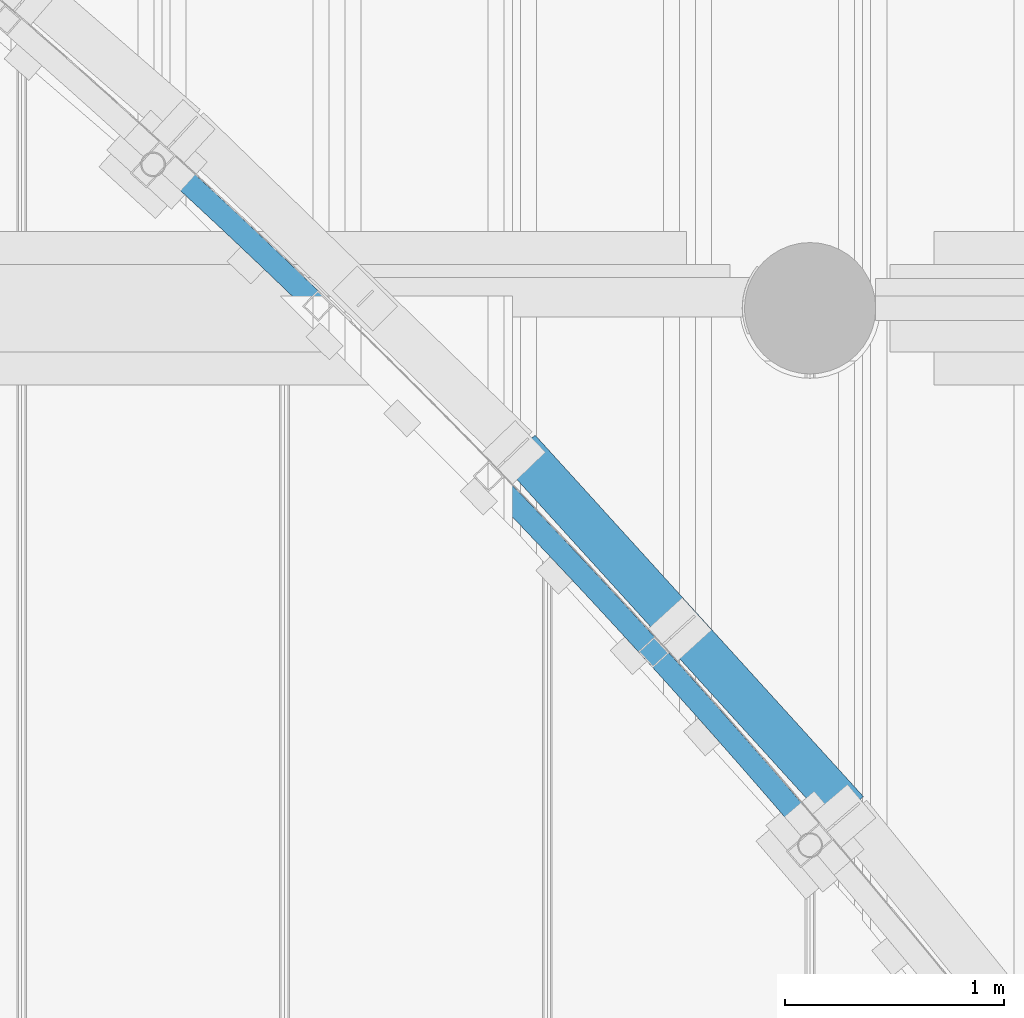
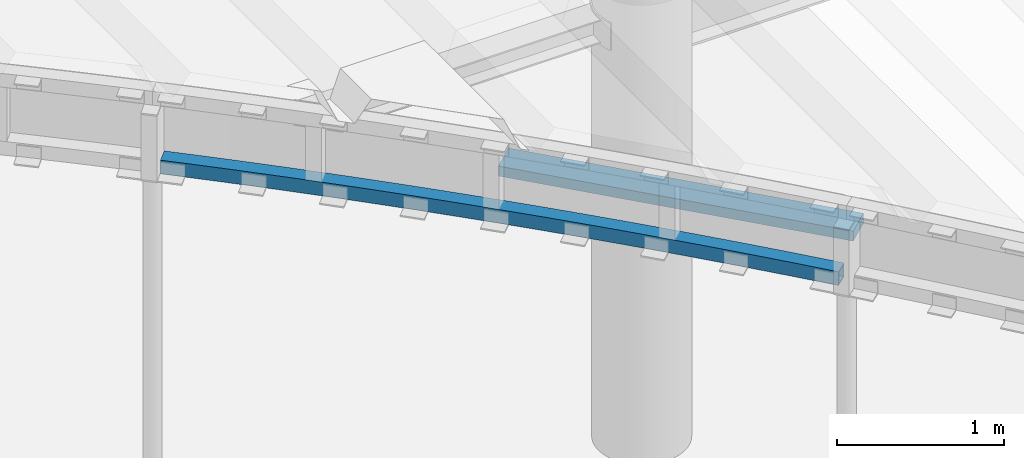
# One storey, part 13 of 98: 2 beams.
"""IFC2X3 building model written with IfcOpenShell, lengths in millimetres."""

from ifc_helpers import new_model, entity, si_unit, converted_unit, derived_unit, direction, frame, origin_with_axes, place, context, subcontext, project, spatial, faceted_brep, material, type_object, element, save


model = new_model("IFC2X3")

# Units and contexts
model_context = context("Model", 3, precision=0.01, world=frame((0.0, 4.29681676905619e-09, 0.0)), true_north=direction((4.01073788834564e-13, 1.0)))
plan_context = context("Plan", 3, precision=0.01, world=frame((0.0, 4.29681676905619e-09, 0.0)), true_north=direction((4.01073788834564e-13, 1.0)))
body_context = subcontext(model_context, "Body", "Model", "MODEL_VIEW")
ifc_project = project(units=[converted_unit("PLANEANGLEUNIT", "DEGREE", entity("IfcPositiveLengthMeasure", 0.0174532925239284), si_unit("PLANEANGLEUNIT", "RADIAN"), dimensions=[0, 0, 0, 0, 0, 0, 0]), si_unit("AREAUNIT", "SQUARE_METRE"), si_unit("LENGTHUNIT", "METRE", prefix="MILLI"), si_unit("MASSUNIT", "GRAM", prefix="KILO"), si_unit("POWERUNIT", "WATT"), si_unit("PRESSUREUNIT", "PASCAL"), si_unit("FORCEUNIT", "NEWTON", prefix="KILO"), si_unit("ELECTRICCURRENTUNIT", "AMPERE"), si_unit("THERMODYNAMICTEMPERATUREUNIT", "DEGREE_CELSIUS"), si_unit("TIMEUNIT", "SECOND"), si_unit("VOLUMEUNIT", "CUBIC_METRE"), derived_unit("LINEARVELOCITYUNIT", [(si_unit("LENGTHUNIT", "METRE"), 1), (si_unit("TIMEUNIT", "SECOND"), -1)]), derived_unit("VOLUMETRICFLOWRATEUNIT", [(si_unit("VOLUMEUNIT", "CUBIC_METRE"), 1), (si_unit("TIMEUNIT", "SECOND"), -1)]), derived_unit("THERMALTRANSMITTANCEUNIT", [(si_unit("POWERUNIT", "WATT"), 1), (si_unit("THERMODYNAMICTEMPERATUREUNIT", "KELVIN"), -1), (si_unit("AREAUNIT", "SQUARE_METRE"), -1)])], contexts=[model_context, plan_context])

# Site, building, storey
site_placement = place(None, frame((0.0, -4.29681676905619e-09, 0.0), z_axis=(0.0, 0.0, 1.0), x_axis=(1.0, 0.0, 0.0)))
site = spatial("IfcSite", under=ifc_project, at=site_placement, Name="Gardermoen", CompositionType="ELEMENT")
building_placement = place(site_placement, frame((0.0, 4.29681676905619e-09, 0.0), z_axis=(0.0, 0.0, 1.0), x_axis=(1.0, 0.0, 0.0)))
building = spatial("IfcBuilding", under=site, at=building_placement, Name="TS", CompositionType="ELEMENT")
storey_placement = place(building_placement, origin_with_axes())
storey = spatial("IfcBuildingStorey", under=building, at=storey_placement, Name="D", CompositionType="ELEMENT", Elevation=0.0)

# Beams
ifc_material_1 = material(Name="TIMBER/GL36c")
beam_type_1 = type_object("IfcBeamType", Name="PL73*198", PredefinedType="NOTDEFINED")
beam_1_placement = place(storey_placement, frame((529170.521674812, 403203.359927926, 206786.5), z_axis=(-0.740230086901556, -0.672353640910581, 0.0), x_axis=(-0.672353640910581, 0.740230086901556, 0.0)))
element("IfcBeam", 1, at=beam_1_placement, inside=storey, type_object=beam_type_1, material=ifc_material_1, Name="TREBJELKE", ObjectType="PL73*198", context=body_context, shape_type="Brep", body=[
    faceted_brep([(2.3283064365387e-10, 36.5, -99.0000000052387), (-2.3283064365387e-10, 36.5, 99.0000000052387), (2230.05016911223, 36.5, 98.9999999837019), (2230.05016910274, 36.5, -99.0000000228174), (-2.3283064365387e-10, -36.5, 99.0000000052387), (2230.05016911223, -36.5, 98.9999999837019), (2.3283064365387e-10, -36.5, -99.0000000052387), (2230.05016910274, -36.5, -99.0000000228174)], [[[0, 1, 2, 3]], [[1, 4, 5, 2]], [[4, 6, 7, 5]], [[6, 0, 3, 7]], [[5, 7, 3, 2]], [[6, 4, 1, 0]]]),
])
ifc_material_2 = material(Name="STEEL/S355")
beam_type_2 = type_object("IfcBeamType", Name="RHS100*6.3", PredefinedType="NOTDEFINED")
beam_2_placement = place(storey_placement, frame((526031.026674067, 406191.052703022, 206555.0), z_axis=(0.0, 0.0, 1.0), x_axis=(0.69236116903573, -0.721551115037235, 0.0)))
element("IfcBeam", 2, at=beam_2_placement, inside=storey, type_object=beam_type_2, material=ifc_material_2, Name="STÅLBJELKE", ObjectType="RHS100*6.3", context=body_context, shape_type="Brep", body=[
    faceted_brep([(93.3062575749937, -44.1646306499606, -50.0), (87.0862092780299, 55.6417368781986, -50.0), (177.426448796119, 61.1542571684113, -50.0), (183.387642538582, -38.6679055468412, -50.0), (267.780680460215, 66.4324743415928, -50.0), (273.48297955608, -33.4048122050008, -50.0), (358.148296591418, 71.4763528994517, -50.0), (363.591662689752, -28.3753860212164, -50.0), (448.528689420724, 76.2858589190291, -50.0), (453.71308591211, -23.5796608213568, -50.0), (538.921251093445, 80.8609600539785, -50.0), (543.846643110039, -19.0176688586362, -50.0), (629.325373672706, 85.2016255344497, -50.0), (633.991728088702, -14.6894408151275, -50.0), (719.740449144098, 89.3078261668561, -50.0), (724.147734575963, -10.5950058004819, -50.0), (810.165869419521, 93.1795343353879, -50.0), (814.314056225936, -6.7343913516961, -50.0), (900.601026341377, 96.8167240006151, -50.0), (904.490086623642, -3.107623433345, -50.0), (991.04531168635, 100.219370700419, -50.0), (994.675219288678, 0.285273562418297, -50.0), (1081.49811717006, 103.387451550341, -50.0), (1084.86884767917, 3.44427681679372, -50.0), (1171.95883445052, 106.320945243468, -50.0), (1175.07036519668, 6.36936508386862, -50.0), (1262.42685513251, 109.019832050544, -50.0), (1265.27916518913, 9.06051869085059, -50.0), (1352.90157077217, 111.484093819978, -50.0), (1355.49464095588, 11.5177195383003, -50.0), (1443.38237288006, 113.713713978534, -50.0), (1445.71618575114, 13.7409511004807, -50.0), (1533.86865292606, 115.708677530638, -50.0), (1535.94319278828, 15.7301984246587, -50.0), (1624.35980234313, 117.468971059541, -50.0), (1626.17505524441, 17.4854481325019, -50.0), (1714.85521253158, 118.994582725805, -50.0), (1716.41116626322, 19.0066884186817, -50.0), (1805.35427486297, 120.285502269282, -50.0), (1806.65091896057, 20.2939090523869, -50.0), (1895.85638068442, 121.34172100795, -50.0), (1896.89370642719, 21.3471013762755, -50.0), (1986.36092132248, 122.163231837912, -50.0), (1987.13892173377, 22.166258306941, -50.0), (2076.86728808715, 122.750029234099, -50.0), (2077.38595793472, 22.7513743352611, -50.0), (2167.3748722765, 123.102109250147, -50.0), (2167.63420807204, 23.102445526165, -50.0), (2257.88306518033, 123.219469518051, -50.0), (2257.88306517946, 23.2194695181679, -50.0), (2348.39125808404, 123.102109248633, -50.0), (2348.13192228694, 23.1024455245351, -50.0), (2438.8988422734, 122.750029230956, -50.0), (2438.38017242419, 22.7513743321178, -50.0), (2529.40520903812, 122.163231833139, -50.0), (2528.62720862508, 22.1662583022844, -50.0), (2619.90974967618, 121.341721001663, -50.0), (2618.87242393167, 21.3471013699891, -50.0), (2710.41185549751, 120.285502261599, -50.0), (2709.11521139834, 20.2939090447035, -50.0), (2800.91091782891, 118.994582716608, -50.0), (2799.35496409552, 19.0066884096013, -50.0), (2891.40632801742, 117.468971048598, -50.0), (2889.59107511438, 17.4854481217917, -50.0), (2981.89747743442, 115.708677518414, -50.0), (2979.8229375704, 15.7301984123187, -50.0), (3072.38375748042, 113.713713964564, -50.0), (3070.04994460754, 13.7409510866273, -50.0), (3162.86455958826, 111.484093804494, -50.0), (3160.27148940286, 11.5177195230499, -50.0), (3253.33927522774, 109.019832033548, -50.0), (3250.48696516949, 9.06051867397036, -50.0), (3343.80729590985, 106.320945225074, -50.0), (3340.69576516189, 6.36936506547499, -50.0), (3434.26801319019, 103.387451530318, -50.0), (3430.89728267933, 3.4442767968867, -50.0), (3524.72081867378, 100.219370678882, -50.0), (3521.09091106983, 0.285273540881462, -50.0), (3615.16510401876, 96.8167239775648, -50.0), (3611.27604373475, -3.10762345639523, -50.0), (3705.60026094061, 93.1795343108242, -50.0), (3701.45207413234, -6.73439137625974, -50.0), (3796.02568121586, 89.3078261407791, -50.0), (3791.61839578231, -10.5950058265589, -50.0), (3886.44075668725, 85.2016255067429, -50.0), (3881.77440226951, -14.6894408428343, -50.0), (3976.8448792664, 80.8609600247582, -50.0), (3971.91948724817, -19.0176688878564, -50.0), (4067.237440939, 76.2858588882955, -50.0), (4062.05304444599, -23.579660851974, -50.0), (4157.61783376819, 71.4763528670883, -50.0), (4152.17446766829, -28.3753860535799, -50.0), (4247.98544989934, 66.4324743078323, -50.0), (4242.2831508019, -33.4048122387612, -50.0), (4157.61783376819, 71.4763528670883, 50.0), (4247.98544989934, 66.4324743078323, 50.0), (4067.237440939, 76.2858588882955, 50.0), (3976.8448792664, 80.8609600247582, 50.0), (3886.44075668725, 85.2016255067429, 50.0), (3796.02568121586, 89.3078261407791, 50.0), (3705.60026094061, 93.1795343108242, 50.0), (3615.16510401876, 96.8167239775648, 50.0), (3524.72081867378, 100.219370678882, 50.0), (3434.26801319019, 103.387451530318, 50.0), (3343.80729590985, 106.320945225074, 50.0), (3253.33927522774, 109.019832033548, 50.0), (3162.86455958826, 111.484093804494, 50.0), (3072.38375748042, 113.713713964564, 50.0), (2981.89747743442, 115.708677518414, 50.0), (2891.40632801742, 117.468971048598, 50.0), (2800.91091782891, 118.994582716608, 50.0), (2710.41185549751, 120.285502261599, 50.0), (2619.90974967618, 121.341721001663, 50.0), (2529.40520903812, 122.163231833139, 50.0), (2438.8988422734, 122.750029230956, 50.0), (2348.39125808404, 123.102109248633, 50.0), (2257.88306518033, 123.219469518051, 50.0), (2167.3748722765, 123.102109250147, 50.0), (2076.86728808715, 122.750029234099, 50.0), (1986.36092132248, 122.163231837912, 50.0), (1895.85638068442, 121.34172100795, 50.0), (1805.35427486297, 120.285502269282, 50.0), (1714.85521253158, 118.994582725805, 50.0), (1624.35980234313, 117.468971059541, 50.0), (1533.86865292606, 115.708677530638, 50.0), (1443.38237288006, 113.713713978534, 50.0), (1352.90157077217, 111.484093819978, 50.0), (1262.42685513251, 109.019832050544, 50.0), (1171.95883445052, 106.320945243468, 50.0), (1081.49811717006, 103.387451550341, 50.0), (991.04531168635, 100.219370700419, 50.0), (900.601026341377, 96.8167240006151, 50.0), (810.165869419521, 93.1795343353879, 50.0), (719.740449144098, 89.3078261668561, 50.0), (629.325373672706, 85.2016255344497, 50.0), (538.921251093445, 80.8609600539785, 50.0), (448.528689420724, 76.2858589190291, 50.0), (358.148296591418, 71.4763528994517, 50.0), (267.780680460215, 66.4324743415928, 50.0), (177.426448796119, 61.1542571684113, 50.0), (87.0862092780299, 55.6417368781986, 50.0), (93.3062575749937, -44.1646306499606, 50.0), (183.387642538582, -38.6679055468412, 50.0), (273.48297955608, -33.4048122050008, 50.0), (363.591662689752, -28.3753860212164, 50.0), (453.71308591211, -23.5796608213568, 50.0), (543.846643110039, -19.0176688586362, 50.0), (633.991728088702, -14.6894408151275, 50.0), (724.147734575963, -10.5950058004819, 50.0), (814.314056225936, -6.7343913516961, 50.0), (904.490086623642, -3.107623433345, 50.0), (994.675219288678, 0.285273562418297, 50.0), (1084.86884767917, 3.44427681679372, 50.0), (1175.07036519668, 6.36936508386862, 50.0), (1265.27916518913, 9.06051869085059, 50.0), (1355.49464095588, 11.5177195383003, 50.0), (1445.71618575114, 13.7409511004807, 50.0), (1535.94319278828, 15.7301984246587, 50.0), (1626.17505524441, 17.4854481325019, 50.0), (1716.41116626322, 19.0066884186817, 50.0), (1806.65091896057, 20.2939090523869, 50.0), (1896.89370642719, 21.3471013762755, 50.0), (1987.13892173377, 22.166258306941, 50.0), (2077.38595793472, 22.7513743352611, 50.0), (2167.63420807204, 23.102445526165, 50.0), (2257.88306517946, 23.2194695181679, 50.0), (2348.13192228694, 23.1024455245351, 50.0), (2438.38017242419, 22.7513743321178, 50.0), (2528.62720862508, 22.1662583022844, 50.0), (2618.87242393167, 21.3471013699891, 50.0), (2709.11521139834, 20.2939090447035, 50.0), (2799.35496409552, 19.0066884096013, 50.0), (2889.59107511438, 17.4854481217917, 50.0), (2979.8229375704, 15.7301984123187, 50.0), (3070.04994460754, 13.7409510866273, 50.0), (3160.27148940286, 11.5177195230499, 50.0), (3250.48696516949, 9.06051867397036, 50.0), (3340.69576516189, 6.36936506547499, 50.0), (3430.89728267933, 3.4442767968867, 50.0), (3521.09091106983, 0.285273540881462, 50.0), (3611.27604373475, -3.10762345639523, 50.0), (3701.45207413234, -6.73439137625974, 50.0), (3791.61839578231, -10.5950058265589, 50.0), (3881.77440226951, -14.6894408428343, 50.0), (3971.91948724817, -19.0176688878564, 50.0), (4062.05304444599, -23.579660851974, 50.0), (4152.17446766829, -28.3753860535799, 50.0), (4242.2831508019, -33.4048122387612, 50.0), (4273.51475765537, -35.2292669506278, 50.0), (4279.10094175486, 64.6148026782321, 50.0), (4279.10094175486, 64.6148026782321, -50.0), (4273.51475765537, -35.2292669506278, -50.0), (53.1893312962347, -46.716989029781, 50.0), (53.1893312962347, -46.716989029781, -50.0), (46.6826423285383, 53.0711415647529, -50.0), (46.6826423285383, 53.0711415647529, 50.0), (87.4780723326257, 49.3539355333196, -43.6999998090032), (87.4780723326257, 49.3539355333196, 43.6999998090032), (47.0925637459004, 46.7844891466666, 43.6999998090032), (47.0925637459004, 46.7844891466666, -43.6999998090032), (92.914394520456, -37.8768293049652, 43.6999998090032), (52.7794098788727, -40.4303366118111, 43.6999998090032), (92.914394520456, -37.8768293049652, -43.6999998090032), (52.7794098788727, -40.4303366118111, -43.6999998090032), (183.012087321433, -32.3791091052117, -43.6999998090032), (177.802004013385, 54.8654607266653, -43.6999998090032), (177.802004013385, 54.8654607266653, 43.6999998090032), (183.012087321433, -32.3791091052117, 43.6999998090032), (273.123734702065, -27.1150629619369, 43.6999998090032), (273.123734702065, -27.1150629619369, -43.6999998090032), (268.13992531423, 60.1427250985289, -43.6999998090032), (268.13992531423, 60.1427250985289, 43.6999998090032), (358.491228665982, 65.1856931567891, 43.6999998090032), (363.248730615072, -22.0847262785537, 43.6999998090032), (363.248730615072, -22.0847262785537, -43.6999998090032), (358.491228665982, 65.1856931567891, -43.6999998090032), (448.85530640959, 69.9943309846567, -43.6999998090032), (448.85530640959, 69.9943309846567, 43.6999998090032), (453.386468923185, -17.288132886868, 43.6999998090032), (453.386468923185, -17.288132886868, -43.6999998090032), (543.536343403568, -12.7253150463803, -43.6999998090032), (539.231550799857, 74.5686062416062, -43.6999998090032), (539.231550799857, 74.5686062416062, 43.6999998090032), (543.536343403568, -12.7253150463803, 43.6999998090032), (633.697747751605, -8.39630344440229, 43.6999998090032), (633.697747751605, -8.39630344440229, -43.6999998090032), (629.619354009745, 78.9084881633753, -43.6999998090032), (629.619354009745, 78.9084881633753, 43.6999998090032), (720.018108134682, 83.0139475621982, 43.6999998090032), (723.870075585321, -4.30112719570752, 43.6999998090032), (723.870075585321, -4.30112719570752, -43.6999998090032), (720.018108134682, 83.0139475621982, -43.6999998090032), (810.427205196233, 86.8849568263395, -43.6999998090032), (810.427205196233, 86.8849568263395, 43.6999998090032), (814.052720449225, -0.439813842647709, 43.6999998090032), (814.052720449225, -0.439813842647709, -43.6999998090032), (904.2450758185, 3.18761064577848, -43.6999998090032), (900.846037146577, 90.5214899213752, -43.6999998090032), (900.846037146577, 90.5214899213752, 43.6999998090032), (904.2450758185, 3.18761064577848, 43.6999998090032), (994.446535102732, 6.58112187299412, 43.6999998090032), (994.446535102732, 6.58112187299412, -43.6999998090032), (991.273995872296, 93.9235223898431, -43.6999998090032), (991.273995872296, 93.9235223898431, 43.6999998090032), (1081.71047319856, 97.0910313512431, 43.6999998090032), (1084.65649165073, 9.7406970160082, 43.6999998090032), (1084.65649165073, 9.7406970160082, -43.6999998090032), (1081.71047319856, 97.0910313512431, -43.6999998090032), (1172.15486089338, 100.023995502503, -43.6999998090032), (1172.15486089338, 100.023995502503, 43.6999998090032), (1174.8743387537, 12.6663148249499, 43.6999998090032), (1174.8743387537, 12.6663148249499, -43.6999998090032), (1265.09946965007, 15.3579556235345, -43.6999998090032), (1262.60655067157, 102.722395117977, -43.6999998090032), (1262.60655067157, 102.722395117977, 43.6999998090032), (1265.09946965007, 15.3579556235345, 43.6999998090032), (1355.33127752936, 17.8156013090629, 43.6999998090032), (1355.33127752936, 17.8156013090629, -43.6999998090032), (1353.06493419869, 105.186212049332, -43.6999998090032), (1353.06493419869, 105.186212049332, 43.6999998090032), (1443.52940309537, 107.415429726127, 43.6999998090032), (1445.56915553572, 20.0392353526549, 43.6999998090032), (1445.56915553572, 20.0392353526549, -43.6999998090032), (1443.52940309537, 107.415429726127, -43.6999998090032), (1533.99934894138, 109.410033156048, -43.6999998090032), (1533.99934894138, 109.410033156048, 43.6999998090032), (1535.81249677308, 22.0288427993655, 43.6999998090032), (1535.81249677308, 22.0288427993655, -43.6999998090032), (1626.06069430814, 23.7844102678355, -43.6999998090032), (1624.47416327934, 111.170008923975, -43.6999998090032), (1624.47416327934, 111.170008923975, 43.6999998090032), (1626.06069430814, 23.7844102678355, 43.6999998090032), (1716.3131411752, 25.3059259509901, 43.6999998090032), (1716.3131411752, 25.3059259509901, -43.6999998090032), (1714.95323761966, 112.695345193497, -43.6999998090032), (1714.95323761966, 112.695345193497, 43.6999998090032), (1805.43596344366, 113.986031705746, 43.6999998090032), (1806.56923037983, 26.5933796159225, 43.6999998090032), (1806.56923037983, 26.5933796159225, -43.6999998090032), (1805.43596344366, 113.986031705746, -43.6999998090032), (1895.92173220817, 115.042059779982, -43.6999998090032), (1895.92173220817, 115.042059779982, 43.6999998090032), (1896.82835490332, 27.6467626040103, 43.6999998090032), (1896.82835490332, 27.6467626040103, -43.6999998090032), (1987.08990770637, 28.4660678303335, -43.6999998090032), (1986.40993534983, 115.863422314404, -43.6999998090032), (1986.40993534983, 115.863422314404, 43.6999998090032), (1987.08990770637, 28.4660678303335, 43.6999998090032), (2077.35328173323, 29.0512897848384, 43.6999998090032), (2077.35328173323, 29.0512897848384, -43.6999998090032), (2076.89996428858, 116.450113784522, -43.6999998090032), (2076.89996428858, 116.450113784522, 43.6999998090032), (2167.39121043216, 116.802130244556, 43.6999998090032), (2167.61786991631, 29.4024245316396, 43.6999998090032), (2167.61786991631, 29.4024245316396, -43.6999998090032), (2167.39121043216, 116.802130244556, -43.6999998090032), (2257.88306518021, 116.919469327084, -43.6999998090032), (2257.88306518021, 116.919469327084, 43.6999998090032), (2257.88306517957, 29.519469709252, 43.6999998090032), (2257.88306517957, 29.519469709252, -43.6999998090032), (2348.1482604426, 29.4024245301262, -43.6999998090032), (2348.37491992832, 116.802130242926, -43.6999998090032), (2348.37491992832, 116.802130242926, 43.6999998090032), (2348.1482604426, 29.4024245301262, 43.6999998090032), (2438.41284862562, 29.0512897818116, 43.6999998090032), (2438.41284862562, 29.0512897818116, -43.6999998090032), (2438.86616607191, 116.450113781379, -43.6999998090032), (2438.86616607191, 116.450113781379, 43.6999998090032), (2529.35619501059, 115.863422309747, 43.6999998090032), (2528.67622265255, 28.4660678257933, 43.6999998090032), (2528.67622265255, 28.4660678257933, -43.6999998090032), (2529.35619501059, 115.863422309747, -43.6999998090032), (2619.8443981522, 115.042059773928, -43.6999998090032), (2619.8443981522, 115.042059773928, 43.6999998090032), (2618.93777545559, 27.6467625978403, 43.6999998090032), (2618.93777545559, 27.6467625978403, -43.6999998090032), (2709.19689997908, 26.5933796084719, -43.6999998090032), (2710.33016691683, 113.986031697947, -43.6999998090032), (2710.33016691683, 113.986031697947, 43.6999998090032), (2709.19689997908, 26.5933796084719, 43.6999998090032), (2799.45298918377, 25.3059259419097, 43.6999998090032), (2799.45298918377, 25.3059259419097, -43.6999998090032), (2800.81289274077, 112.695345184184, -43.6999998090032), (2800.81289274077, 112.695345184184, 43.6999998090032), (2891.29196708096, 111.170008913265, 43.6999998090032), (2889.70543605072, 23.7844102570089, 43.6999998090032), (2889.70543605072, 23.7844102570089, -43.6999998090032), (2891.29196708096, 111.170008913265, -43.6999998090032), (2981.76678141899, 109.410033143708, -43.6999998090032), (2981.76678141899, 109.410033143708, 43.6999998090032), (2979.95363358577, 22.0288427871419, 43.6999998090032), (2979.95363358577, 22.0288427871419, -43.6999998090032), (3070.19697482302, 20.0392353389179, -43.6999998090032), (3072.23672726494, 107.41542971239, -43.6999998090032), (3072.23672726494, 107.41542971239, 43.6999998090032), (3070.19697482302, 20.0392353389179, 43.6999998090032), (3160.43485282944, 17.8156012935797, 43.6999998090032), (3160.43485282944, 17.8156012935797, -43.6999998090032), (3162.70119616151, 105.186212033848, -43.6999998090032), (3162.70119616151, 105.186212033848, 43.6999998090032), (3253.15957968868, 102.72239510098, 43.6999998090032), (3250.66666070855, 15.3579556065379, 43.6999998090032), (3250.66666070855, 15.3579556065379, -43.6999998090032), (3253.15957968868, 102.72239510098, -43.6999998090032), (3343.61126946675, 100.023995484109, -43.6999998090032), (3343.61126946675, 100.023995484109, 43.6999998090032), (3340.89179160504, 12.6663148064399, 43.6999998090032), (3340.89179160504, 12.6663148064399, -43.6999998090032), (3431.10963870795, 9.74069699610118, -43.6999998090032), (3434.05565716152, 97.0910313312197, -43.6999998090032), (3434.05565716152, 97.0910313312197, 43.6999998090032), (3431.10963870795, 9.74069699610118, 43.6999998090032), (3521.31959525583, 6.5811218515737, 43.6999998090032), (3521.31959525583, 6.5811218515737, -43.6999998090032), (3524.49213448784, 93.9235223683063, -43.6999998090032), (3524.49213448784, 93.9235223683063, 43.6999998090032), (3614.92009321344, 90.5214898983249, 43.6999998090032), (3611.52105454, 3.18761062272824, 43.6999998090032), (3611.52105454, 3.18761062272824, -43.6999998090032), (3614.92009321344, 90.5214898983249, -43.6999998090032), (3705.33892516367, 86.8849568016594, -43.6999998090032), (3705.33892516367, 86.8849568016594, 43.6999998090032), (3701.71340990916, -0.439813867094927, 43.6999998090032), (3701.71340990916, -0.439813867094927, -43.6999998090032), (3791.89605477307, -4.30112722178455, -43.6999998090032), (3795.74802222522, 83.0139475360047, -43.6999998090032), (3795.74802222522, 83.0139475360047, 43.6999998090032), (3791.89605477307, -4.30112722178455, 43.6999998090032), (3882.06838260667, -8.39630347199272, 43.6999998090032), (3882.06838260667, -8.39630347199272, -43.6999998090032), (3886.1467763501, 78.9084881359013, -43.6999998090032), (3886.1467763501, 78.9084881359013, 43.6999998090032), (3976.53457955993, 74.5686062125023, 43.6999998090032), (3972.2297869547, -12.7253150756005, 43.6999998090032), (3972.2297869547, -12.7253150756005, -43.6999998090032), (3976.53457955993, 74.5686062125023, -43.6999998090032), (4066.91082395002, 69.9943309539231, -43.6999998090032), (4066.91082395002, 69.9943309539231, 43.6999998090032), (4062.37966143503, -17.2881329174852, 43.6999998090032), (4062.37966143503, -17.2881329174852, -43.6999998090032), (4152.51739974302, -22.0847263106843, -43.6999998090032), (4157.27490169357, 65.1856931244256, -43.6999998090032), (4157.27490169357, 65.1856931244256, 43.6999998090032), (4152.51739974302, -22.0847263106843, 43.6999998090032), (4242.64239565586, -27.1150629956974, 43.6999998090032), (4242.64239565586, -27.1150629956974, -43.6999998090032), (4247.62620504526, 60.1427250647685, -43.6999998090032), (4247.62620504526, 60.1427250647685, 43.6999998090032), (4278.74901214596, 58.3246261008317, 43.6999998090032), (4273.86668726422, -28.9390903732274, 43.6999998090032), (4273.86668726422, -28.9390903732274, -43.6999998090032), (4278.74901214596, 58.3246261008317, -43.6999998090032)], [[[0, 1, 2, 3]], [[3, 2, 4, 5]], [[5, 4, 6, 7]], [[7, 6, 8, 9]], [[9, 8, 10, 11]], [[11, 10, 12, 13]], [[13, 12, 14, 15]], [[15, 14, 16, 17]], [[17, 16, 18, 19]], [[19, 18, 20, 21]], [[21, 20, 22, 23]], [[23, 22, 24, 25]], [[25, 24, 26, 27]], [[27, 26, 28, 29]], [[29, 28, 30, 31]], [[31, 30, 32, 33]], [[33, 32, 34, 35]], [[35, 34, 36, 37]], [[37, 36, 38, 39]], [[39, 38, 40, 41]], [[41, 40, 42, 43]], [[43, 42, 44, 45]], [[45, 44, 46, 47]], [[47, 46, 48, 49]], [[49, 48, 50, 51]], [[51, 50, 52, 53]], [[53, 52, 54, 55]], [[55, 54, 56, 57]], [[57, 56, 58, 59]], [[59, 58, 60, 61]], [[61, 60, 62, 63]], [[63, 62, 64, 65]], [[65, 64, 66, 67]], [[67, 66, 68, 69]], [[69, 68, 70, 71]], [[71, 70, 72, 73]], [[73, 72, 74, 75]], [[75, 74, 76, 77]], [[77, 76, 78, 79]], [[79, 78, 80, 81]], [[81, 80, 82, 83]], [[83, 82, 84, 85]], [[85, 84, 86, 87]], [[87, 86, 88, 89]], [[89, 88, 90, 91]], [[91, 90, 92, 93]], [[90, 94, 95, 92]], [[88, 96, 94, 90]], [[86, 97, 96, 88]], [[84, 98, 97, 86]], [[82, 99, 98, 84]], [[80, 100, 99, 82]], [[78, 101, 100, 80]], [[76, 102, 101, 78]], [[74, 103, 102, 76]], [[72, 104, 103, 74]], [[70, 105, 104, 72]], [[68, 106, 105, 70]], [[66, 107, 106, 68]], [[64, 108, 107, 66]], [[62, 109, 108, 64]], [[60, 110, 109, 62]], [[58, 111, 110, 60]], [[56, 112, 111, 58]], [[54, 113, 112, 56]], [[52, 114, 113, 54]], [[50, 115, 114, 52]], [[48, 116, 115, 50]], [[46, 117, 116, 48]], [[44, 118, 117, 46]], [[42, 119, 118, 44]], [[40, 120, 119, 42]], [[38, 121, 120, 40]], [[36, 122, 121, 38]], [[34, 123, 122, 36]], [[32, 124, 123, 34]], [[30, 125, 124, 32]], [[28, 126, 125, 30]], [[26, 127, 126, 28]], [[24, 128, 127, 26]], [[22, 129, 128, 24]], [[20, 130, 129, 22]], [[18, 131, 130, 20]], [[16, 132, 131, 18]], [[14, 133, 132, 16]], [[12, 134, 133, 14]], [[10, 135, 134, 12]], [[8, 136, 135, 10]], [[6, 137, 136, 8]], [[4, 138, 137, 6]], [[2, 139, 138, 4]], [[1, 140, 139, 2]], [[140, 141, 142, 139]], [[139, 142, 143, 138]], [[138, 143, 144, 137]], [[137, 144, 145, 136]], [[136, 145, 146, 135]], [[135, 146, 147, 134]], [[134, 147, 148, 133]], [[133, 148, 149, 132]], [[132, 149, 150, 131]], [[131, 150, 151, 130]], [[130, 151, 152, 129]], [[129, 152, 153, 128]], [[128, 153, 154, 127]], [[127, 154, 155, 126]], [[126, 155, 156, 125]], [[125, 156, 157, 124]], [[124, 157, 158, 123]], [[123, 158, 159, 122]], [[122, 159, 160, 121]], [[121, 160, 161, 120]], [[120, 161, 162, 119]], [[119, 162, 163, 118]], [[118, 163, 164, 117]], [[117, 164, 165, 116]], [[116, 165, 166, 115]], [[115, 166, 167, 114]], [[114, 167, 168, 113]], [[113, 168, 169, 112]], [[112, 169, 170, 111]], [[111, 170, 171, 110]], [[110, 171, 172, 109]], [[109, 172, 173, 108]], [[108, 173, 174, 107]], [[107, 174, 175, 106]], [[106, 175, 176, 105]], [[105, 176, 177, 104]], [[104, 177, 178, 103]], [[103, 178, 179, 102]], [[102, 179, 180, 101]], [[101, 180, 181, 100]], [[100, 181, 182, 99]], [[99, 182, 183, 98]], [[98, 183, 184, 97]], [[97, 184, 185, 96]], [[96, 185, 186, 94]], [[94, 186, 187, 95]], [[95, 187, 188, 189]], [[92, 95, 189, 190]], [[93, 92, 190, 191]], [[187, 93, 191, 188]], [[186, 91, 93, 187]], [[185, 89, 91, 186]], [[184, 87, 89, 185]], [[183, 85, 87, 184]], [[182, 83, 85, 183]], [[181, 81, 83, 182]], [[180, 79, 81, 181]], [[179, 77, 79, 180]], [[178, 75, 77, 179]], [[177, 73, 75, 178]], [[176, 71, 73, 177]], [[175, 69, 71, 176]], [[174, 67, 69, 175]], [[173, 65, 67, 174]], [[172, 63, 65, 173]], [[171, 61, 63, 172]], [[170, 59, 61, 171]], [[169, 57, 59, 170]], [[168, 55, 57, 169]], [[167, 53, 55, 168]], [[166, 51, 53, 167]], [[165, 49, 51, 166]], [[164, 47, 49, 165]], [[163, 45, 47, 164]], [[162, 43, 45, 163]], [[161, 41, 43, 162]], [[160, 39, 41, 161]], [[159, 37, 39, 160]], [[158, 35, 37, 159]], [[157, 33, 35, 158]], [[156, 31, 33, 157]], [[155, 29, 31, 156]], [[154, 27, 29, 155]], [[153, 25, 27, 154]], [[152, 23, 25, 153]], [[151, 21, 23, 152]], [[150, 19, 21, 151]], [[149, 17, 19, 150]], [[148, 15, 17, 149]], [[147, 13, 15, 148]], [[146, 11, 13, 147]], [[145, 9, 11, 146]], [[144, 7, 9, 145]], [[143, 5, 7, 144]], [[142, 3, 5, 143]], [[141, 0, 3, 142]], [[0, 141, 192, 193]], [[1, 0, 193, 194]], [[140, 1, 194, 195]], [[141, 140, 195, 192]], [[196, 197, 198, 199]], [[197, 200, 201, 198]], [[200, 202, 203, 201]], [[194, 193, 192, 195], [199, 198, 201, 203]], [[202, 196, 199, 203]], [[196, 202, 204, 205]], [[197, 196, 205, 206]], [[200, 197, 206, 207]], [[202, 200, 207, 204]], [[204, 207, 208, 209]], [[205, 204, 209, 210]], [[206, 205, 210, 211]], [[207, 206, 211, 208]], [[208, 211, 212, 213]], [[209, 208, 213, 214]], [[210, 209, 214, 215]], [[211, 210, 215, 212]], [[212, 215, 216, 217]], [[213, 212, 217, 218]], [[214, 213, 218, 219]], [[215, 214, 219, 216]], [[216, 219, 220, 221]], [[217, 216, 221, 222]], [[218, 217, 222, 223]], [[219, 218, 223, 220]], [[220, 223, 224, 225]], [[221, 220, 225, 226]], [[222, 221, 226, 227]], [[223, 222, 227, 224]], [[224, 227, 228, 229]], [[225, 224, 229, 230]], [[226, 225, 230, 231]], [[227, 226, 231, 228]], [[228, 231, 232, 233]], [[229, 228, 233, 234]], [[230, 229, 234, 235]], [[231, 230, 235, 232]], [[232, 235, 236, 237]], [[233, 232, 237, 238]], [[234, 233, 238, 239]], [[235, 234, 239, 236]], [[236, 239, 240, 241]], [[237, 236, 241, 242]], [[238, 237, 242, 243]], [[239, 238, 243, 240]], [[240, 243, 244, 245]], [[241, 240, 245, 246]], [[242, 241, 246, 247]], [[243, 242, 247, 244]], [[244, 247, 248, 249]], [[245, 244, 249, 250]], [[246, 245, 250, 251]], [[247, 246, 251, 248]], [[248, 251, 252, 253]], [[249, 248, 253, 254]], [[250, 249, 254, 255]], [[251, 250, 255, 252]], [[252, 255, 256, 257]], [[253, 252, 257, 258]], [[254, 253, 258, 259]], [[255, 254, 259, 256]], [[256, 259, 260, 261]], [[257, 256, 261, 262]], [[258, 257, 262, 263]], [[259, 258, 263, 260]], [[260, 263, 264, 265]], [[261, 260, 265, 266]], [[262, 261, 266, 267]], [[263, 262, 267, 264]], [[264, 267, 268, 269]], [[265, 264, 269, 270]], [[266, 265, 270, 271]], [[267, 266, 271, 268]], [[268, 271, 272, 273]], [[269, 268, 273, 274]], [[270, 269, 274, 275]], [[271, 270, 275, 272]], [[272, 275, 276, 277]], [[273, 272, 277, 278]], [[274, 273, 278, 279]], [[275, 274, 279, 276]], [[276, 279, 280, 281]], [[277, 276, 281, 282]], [[278, 277, 282, 283]], [[279, 278, 283, 280]], [[280, 283, 284, 285]], [[281, 280, 285, 286]], [[282, 281, 286, 287]], [[283, 282, 287, 284]], [[284, 287, 288, 289]], [[285, 284, 289, 290]], [[286, 285, 290, 291]], [[287, 286, 291, 288]], [[288, 291, 292, 293]], [[289, 288, 293, 294]], [[290, 289, 294, 295]], [[291, 290, 295, 292]], [[292, 295, 296, 297]], [[293, 292, 297, 298]], [[294, 293, 298, 299]], [[295, 294, 299, 296]], [[296, 299, 300, 301]], [[297, 296, 301, 302]], [[298, 297, 302, 303]], [[299, 298, 303, 300]], [[300, 303, 304, 305]], [[301, 300, 305, 306]], [[302, 301, 306, 307]], [[303, 302, 307, 304]], [[304, 307, 308, 309]], [[305, 304, 309, 310]], [[306, 305, 310, 311]], [[307, 306, 311, 308]], [[308, 311, 312, 313]], [[309, 308, 313, 314]], [[310, 309, 314, 315]], [[311, 310, 315, 312]], [[312, 315, 316, 317]], [[313, 312, 317, 318]], [[314, 313, 318, 319]], [[315, 314, 319, 316]], [[316, 319, 320, 321]], [[317, 316, 321, 322]], [[318, 317, 322, 323]], [[319, 318, 323, 320]], [[320, 323, 324, 325]], [[321, 320, 325, 326]], [[322, 321, 326, 327]], [[323, 322, 327, 324]], [[324, 327, 328, 329]], [[325, 324, 329, 330]], [[326, 325, 330, 331]], [[327, 326, 331, 328]], [[328, 331, 332, 333]], [[329, 328, 333, 334]], [[330, 329, 334, 335]], [[331, 330, 335, 332]], [[332, 335, 336, 337]], [[333, 332, 337, 338]], [[334, 333, 338, 339]], [[335, 334, 339, 336]], [[336, 339, 340, 341]], [[337, 336, 341, 342]], [[338, 337, 342, 343]], [[339, 338, 343, 340]], [[340, 343, 344, 345]], [[341, 340, 345, 346]], [[342, 341, 346, 347]], [[343, 342, 347, 344]], [[344, 347, 348, 349]], [[345, 344, 349, 350]], [[346, 345, 350, 351]], [[347, 346, 351, 348]], [[348, 351, 352, 353]], [[349, 348, 353, 354]], [[350, 349, 354, 355]], [[351, 350, 355, 352]], [[352, 355, 356, 357]], [[353, 352, 357, 358]], [[354, 353, 358, 359]], [[355, 354, 359, 356]], [[356, 359, 360, 361]], [[357, 356, 361, 362]], [[358, 357, 362, 363]], [[359, 358, 363, 360]], [[360, 363, 364, 365]], [[361, 360, 365, 366]], [[362, 361, 366, 367]], [[363, 362, 367, 364]], [[364, 367, 368, 369]], [[365, 364, 369, 370]], [[366, 365, 370, 371]], [[367, 366, 371, 368]], [[368, 371, 372, 373]], [[369, 368, 373, 374]], [[370, 369, 374, 375]], [[371, 370, 375, 372]], [[372, 375, 376, 377]], [[373, 372, 377, 378]], [[374, 373, 378, 379]], [[375, 374, 379, 376]], [[376, 379, 380, 381]], [[377, 376, 381, 382]], [[378, 377, 382, 383]], [[379, 378, 383, 380]], [[380, 383, 384, 385]], [[381, 380, 385, 386]], [[382, 381, 386, 387]], [[383, 382, 387, 384]], [[384, 387, 388, 389]], [[385, 384, 389, 390]], [[386, 385, 390, 391]], [[387, 386, 391, 388]], [[191, 190, 189, 188], [390, 389, 388, 391]]]),
])

save(model, "model.ifc")
